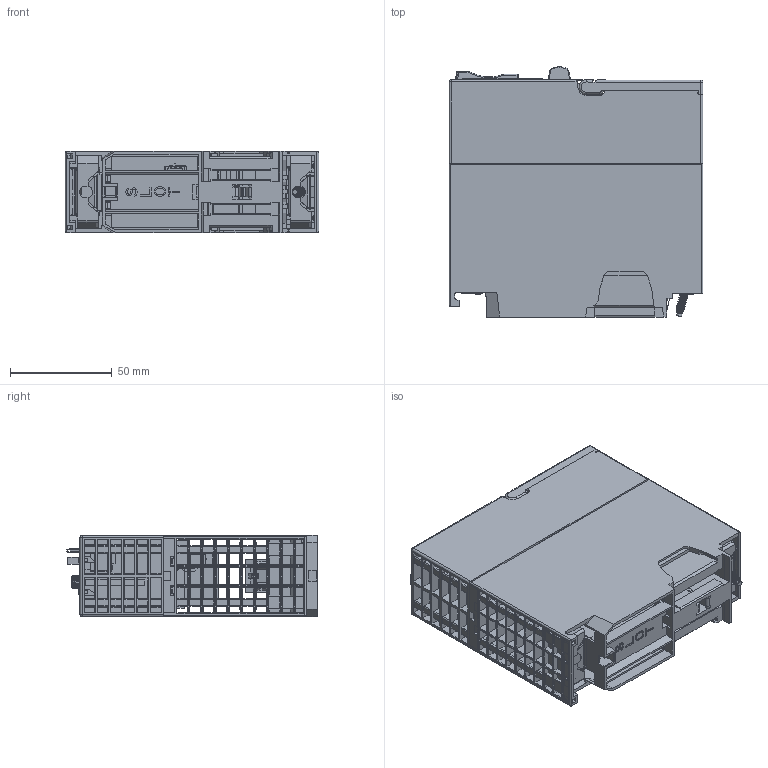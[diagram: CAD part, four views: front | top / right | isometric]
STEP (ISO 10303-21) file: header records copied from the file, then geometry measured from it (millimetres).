
FILE_DESCRIPTION((''),'2;1');
FILE_NAME('315-2AG13_DET5','2015-01-13T',('tbothe'),(''),'PRO/ENGINEER BY PARAMETRIC TECHNOLOGY CORPORATION, 2013320','PRO/ENGINEER BY PARAMETRIC TECHNOLOGY CORPORATION, 2013320','');
FILE_SCHEMA(('CONFIG_CONTROL_DESIGN'));
Products named in the file (1): 315-2AG13_DET5
Bounding box: 125 x 123.29 x 40.05 mm (x, y, z)
Surface area: 116419.9 mm2 (no closed solid volume)
Topology: 0 solids, 184 shells, 1843 faces, 10762 edges, 8764 vertices
Faces by surface type: plane 1314, cylinder 442, bspline 40, cone 17, torus 17, sphere 12, extrusion 1
Entity records: 111906 total; most frequent: CARTESIAN_POINT 33070, ORIENTED_EDGE 14900, DIRECTION 14103, EDGE_CURVE 10754, VECTOR 9039, LINE 9038, VERTEX_POINT 8764, AXIS2_PLACEMENT_3D 2532
